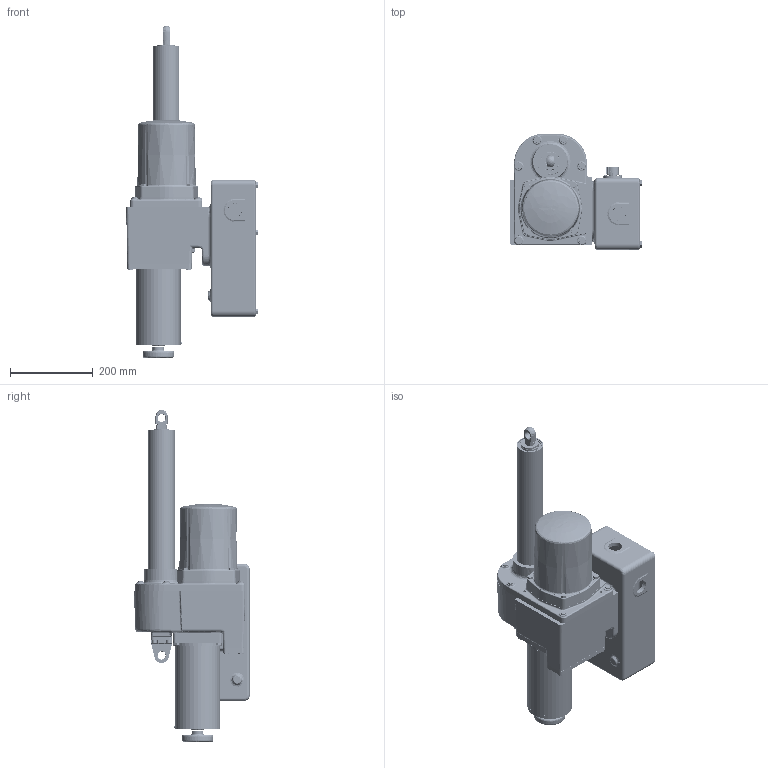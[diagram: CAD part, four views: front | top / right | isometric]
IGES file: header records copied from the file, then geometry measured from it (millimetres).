
Start section: SolidWorks IGES file using analytic representation for surfaces
Global section: file name: N:\Engineering\Product Support\Outline Dimension Models\42-1xx\IGES+STEP\18-4219-01_12_solid.IGS; native system: SolidWorks 2009; preprocessor: SolidWorks 2009; author: jmack; date: 110707.163626; units: inch
Bounding box: 317.95 x 280.68 x 801.9 mm (x, y, z)
Surface area: 1783434.1 mm2 (no closed solid volume)
Topology: 0 solids, 0 shells, 5310 faces, 64886 edges, 64538 vertices
Faces by surface type: bspline 2774, revolution 2536
